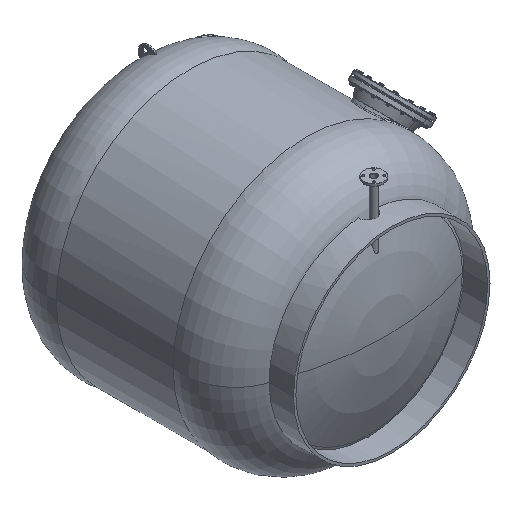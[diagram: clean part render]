
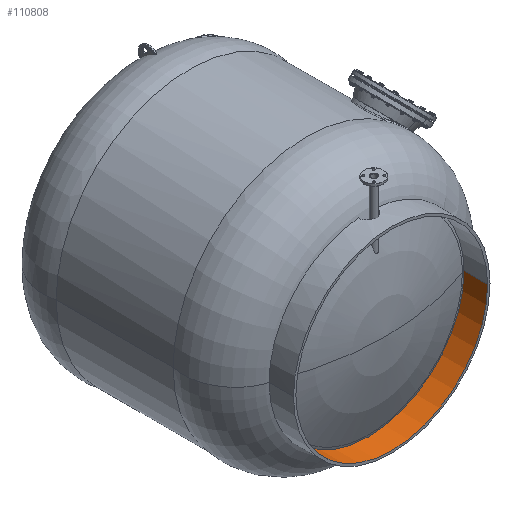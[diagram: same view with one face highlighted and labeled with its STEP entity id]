
A CAD part, isometric view. The second image highlights one B-rep face of the part: STEP entity #110808.
In plain terms, the highlighted cylindrical face has radius 800 mm (diameter 1600 mm), a partial arc.
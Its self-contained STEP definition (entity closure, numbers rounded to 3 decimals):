
#3708 = EDGE_CURVE ( 'NONE', #72172, #56115, #95439, .T. ) ;
#3780 = AXIS2_PLACEMENT_3D ( 'NONE', #60938, #104150, #6664 ) ;
#6470 = AXIS2_PLACEMENT_3D ( 'NONE', #19690, #29520, #46294 ) ;
#6664 = DIRECTION ( 'NONE',  ( 1., 0., 0. ) ) ;
#9289 = ORIENTED_EDGE ( 'NONE', *, *, #57616, .F. ) ;
#9294 = CIRCLE ( 'NONE', #3780, 800. ) ;
#16417 = DIRECTION ( 'NONE',  ( 0., -1., 0. ) ) ;
#17725 = ORIENTED_EDGE ( 'NONE', *, *, #3708, .T. ) ;
#19690 = CARTESIAN_POINT ( 'NONE',  ( 850., 197., -850. ) ) ;
#24780 = CARTESIAN_POINT ( 'NONE',  ( 1650., 0., -850. ) ) ;
#29520 = DIRECTION ( 'NONE',  ( 0., 1., 0. ) ) ;
#32906 = CARTESIAN_POINT ( 'NONE',  ( 850., 0., -850. ) ) ;
#34701 = LINE ( 'NONE', #62333, #93140 ) ;
#40414 = CARTESIAN_POINT ( 'NONE',  ( 1650., 197., -850. ) ) ;
#43323 = DIRECTION ( 'NONE',  ( 0., -1., 0. ) ) ;
#46294 = DIRECTION ( 'NONE',  ( 1., 0., 0. ) ) ;
#52513 = DIRECTION ( 'NONE',  ( 0., -1., 0. ) ) ;
#56115 = VERTEX_POINT ( 'NONE', #75266 ) ;
#57616 = EDGE_CURVE ( 'NONE', #102250, #56115, #9294, .T. ) ;
#60938 = CARTESIAN_POINT ( 'NONE',  ( 850., 0., -850. ) ) ;
#62333 = CARTESIAN_POINT ( 'NONE',  ( 1650., 197., -850. ) ) ;
#63621 = CIRCLE ( 'NONE', #6470, 800. ) ;
#65779 = CYLINDRICAL_SURFACE ( 'NONE', #70511, 800. ) ;
#70511 = AXIS2_PLACEMENT_3D ( 'NONE', #32906, #52513, #77911 ) ;
#72168 = EDGE_CURVE ( 'NONE', #85352, #72172, #63621, .T. ) ;
#72172 = VERTEX_POINT ( 'NONE', #109107 ) ;
#75266 = CARTESIAN_POINT ( 'NONE',  ( 50., 0., -850. ) ) ;
#77911 = DIRECTION ( 'NONE',  ( 1., 0., 0. ) ) ;
#81601 = EDGE_LOOP ( 'NONE', ( #111040, #17725, #9289, #102869 ) ) ;
#85352 = VERTEX_POINT ( 'NONE', #40414 ) ;
#93140 = VECTOR ( 'NONE', #43323, 1000. ) ;
#95439 = LINE ( 'NONE', #105240, #107080 ) ;
#102250 = VERTEX_POINT ( 'NONE', #24780 ) ;
#102869 = ORIENTED_EDGE ( 'NONE', *, *, #112233, .F. ) ;
#104150 = DIRECTION ( 'NONE',  ( 0., 1., 0. ) ) ;
#105240 = CARTESIAN_POINT ( 'NONE',  ( 50., 197., -850. ) ) ;
#107080 = VECTOR ( 'NONE', #16417, 1000. ) ;
#109107 = CARTESIAN_POINT ( 'NONE',  ( 50., 197., -850. ) ) ;
#109605 = FACE_OUTER_BOUND ( 'NONE', #81601, .T. ) ;
#110808 = ADVANCED_FACE ( 'NONE', ( #109605 ), #65779, .F. ) ;
#111040 = ORIENTED_EDGE ( 'NONE', *, *, #72168, .T. ) ;
#112233 = EDGE_CURVE ( 'NONE', #85352, #102250, #34701, .T. ) ;
